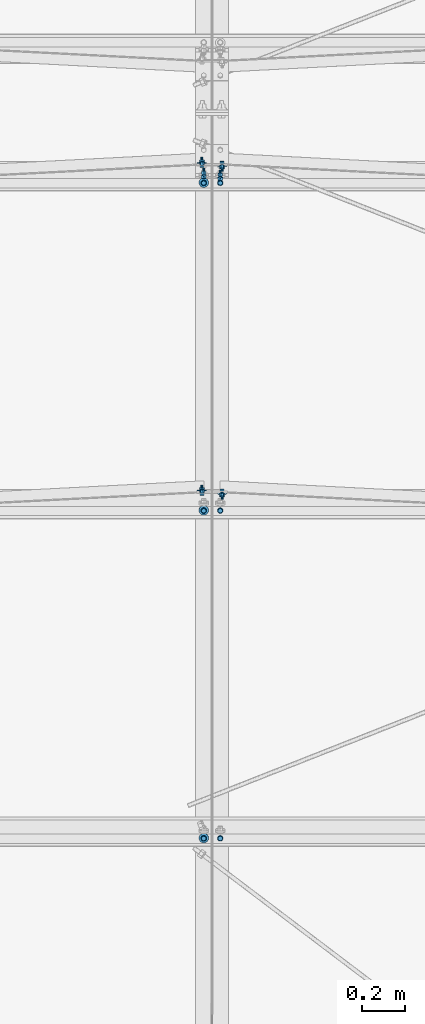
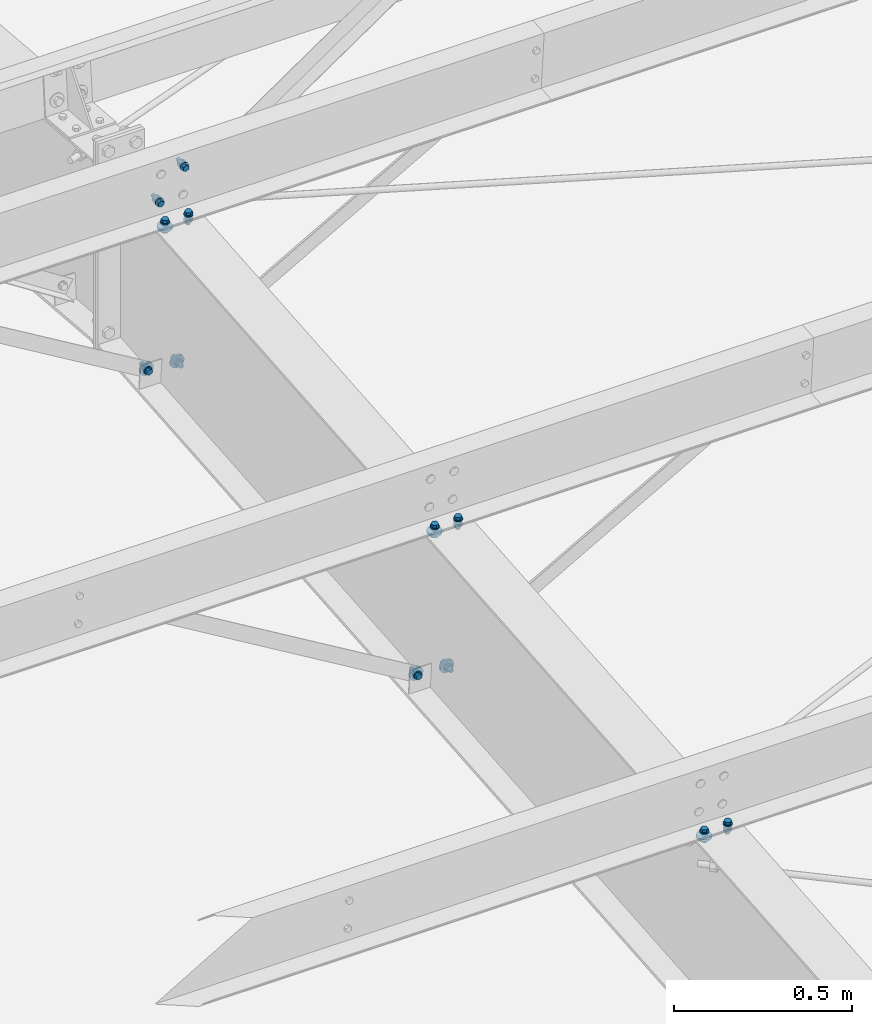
# One storey, part 131 of 185: 16 mechanical fasteners, 9 elements without a shape of their own.
"""IFC2X3 building model written with IfcOpenShell, lengths in millimetres."""

import ifcopenshell
import ifcopenshell.guid

model = None  # the IFC model being written
_history = None  # IfcOwnerHistory: only IFC2X3 demands one
_inside = {}  # id of a spatial element -> (the spatial element, [elements in it])
_under = {}  # id of a project, library or spatial element -> (it, [spatial elements below it])
_declared = {}  # id of a project -> (the project, [libraries it declares])
_typed = {}  # id of a type object -> (the type object, [elements of that type])
_made_of = {}  # id of a material, layer set ... -> (it, [elements and type objects made of it])


def new_model(schema):
    """Start an empty IFC model of exactly this schema.

    Asked for "IFC4X3", IfcOpenShell would pick the latest addendum, in which some entities
    have other attributes; the version numbers below select the first issue.
    IFC2X3 requires an IfcOwnerHistory on every rooted entity: one is made here for all.
    """
    global model, _history
    if schema == "IFC4X3":
        model = ifcopenshell.file(schema_version=(4, 3, 0, 0))
    else:
        model = ifcopenshell.file(schema=schema)
    _inside.clear()
    _under.clear()
    _declared.clear()
    _typed.clear()
    _made_of.clear()
    _history = None
    if model.schema == "IFC2X3":
        org = make("IfcOrganization", Name="unknown")
        user = make(
            "IfcPersonAndOrganization",
            ThePerson=make("IfcPerson", FamilyName="unknown"),
            TheOrganization=org,
        )
        app = make(
            "IfcApplication",
            ApplicationDeveloper=org,
            Version="unknown",
            ApplicationFullName="unknown",
            ApplicationIdentifier="unknown",
        )
        _history = make(
            "IfcOwnerHistory",
            OwningUser=user,
            OwningApplication=app,
            ChangeAction="ADDED",
            CreationDate=0,
        )
    return model


def make(cls, **values):
    """One entity of the class cls with the attributes given. An attribute that is None is left unset."""
    return model.create_entity(
        cls, **{name: value for name, value in values.items() if value is not None}
    )


def rooted(cls, **values):
    """An entity with a GlobalId (a new one), such as an element, a storey or a relation."""
    return make(cls, GlobalId=ifcopenshell.guid.new(), OwnerHistory=_history, **values)


def si_unit(unit_type, name, prefix=None):
    """IfcSIUnit, for example si_unit("LENGTHUNIT", "METRE", prefix="MILLI")."""
    return make("IfcSIUnit", UnitType=unit_type, Prefix=prefix, Name=name)


def assignment(units):
    """IfcUnitAssignment: the units of a project."""
    return None if units is None else make("IfcUnitAssignment", Units=units)


def point(xyz):
    """IfcCartesianPoint."""
    return None if xyz is None else make("IfcCartesianPoint", Coordinates=xyz)


def direction(xyz):
    """IfcDirection."""
    return None if xyz is None else make("IfcDirection", DirectionRatios=xyz)


def frame(location, z_axis=None, x_axis=None):
    """IfcAxis2Placement3D, a coordinate frame: its origin and axes. An axis left out is left unset."""
    return make(
        "IfcAxis2Placement3D",
        Location=point(location),
        Axis=direction(z_axis),
        RefDirection=direction(x_axis),
    )


def frame_2d(location, x_axis=None):
    """IfcAxis2Placement2D, a coordinate frame in the plane: its origin and x axis."""
    return make(
        "IfcAxis2Placement2D", Location=point(location), RefDirection=direction(x_axis)
    )


def origin_with_axes():
    """The frame at (0, 0, 0) with the z axis (0, 0, 1) and the x axis (1, 0, 0) written out."""
    return frame((0.0, 0.0, 0.0), z_axis=(0.0, 0.0, 1.0), x_axis=(1.0, 0.0, 0.0))


def origin_2d_with_axis():
    """The frame at (0, 0) in the plane with the x axis (1, 0) written out."""
    return frame_2d((0.0, 0.0), x_axis=(1.0, 0.0))


def place(relative_to, where):
    """IfcLocalPlacement: puts the frame where relative to a parent placement (None: the world)."""
    return make(
        "IfcLocalPlacement", PlacementRelTo=relative_to, RelativePlacement=where
    )


def context(
    kind, dimensions, precision=None, world=None, true_north=None, identifier=None
):
    """IfcGeometricRepresentationContext, for example the 3D "Model" context."""
    return make(
        "IfcGeometricRepresentationContext",
        ContextIdentifier=identifier,
        ContextType=kind,
        CoordinateSpaceDimension=dimensions,
        Precision=precision,
        WorldCoordinateSystem=world,
        TrueNorth=true_north,
    )


def subcontext(parent, identifier, kind, view, scale=None):
    """IfcGeometricRepresentationSubContext, for example "Body" below "Model"."""
    return make(
        "IfcGeometricRepresentationSubContext",
        ContextIdentifier=identifier,
        ContextType=kind,
        ParentContext=parent,
        TargetScale=scale,
        TargetView=view,
    )


def project(units=None, contexts=None):
    """IfcProject with its units and contexts."""
    return rooted(
        "IfcProject",
        Name="project",
        RepresentationContexts=contexts,
        UnitsInContext=assignment(units),
    )


def spatial(cls, under=None, at=None, **own):
    """A site, building, storey or space (cls), placed at a placement, below another one or the project."""
    s = rooted(cls, ObjectPlacement=at, **own)
    if under is not None:
        _under.setdefault(under.id(), (under, []))[1].append(s)
    return s


def polyline(points):
    """IfcPolyline through the points."""
    return make("IfcPolyline", Points=[point(p) for p in points])


def profile(cls, at=None, kind="AREA", **sizes):
    """A parametric profile (cls). Its sizes go by their IFC names, for example OverallWidth=200.0."""
    return make(cls, ProfileType=kind, Position=at, **sizes)


def circle(**sizes):
    """IfcCircleProfileDef."""
    return profile("IfcCircleProfileDef", **sizes)


def outline(outer, holes=None, kind="AREA"):
    """IfcArbitraryClosedProfileDef: a profile drawn as a closed curve; with holes, ...WithVoids."""
    if holes is None:
        return make("IfcArbitraryClosedProfileDef", ProfileType=kind, OuterCurve=outer)
    return make(
        "IfcArbitraryProfileDefWithVoids",
        ProfileType=kind,
        OuterCurve=outer,
        InnerCurves=holes,
    )


def extrude(swept, where, along, depth):
    """IfcExtrudedAreaSolid: the profile swept, set in the frame where, extruded along a direction by depth."""
    return make(
        "IfcExtrudedAreaSolid",
        SweptArea=swept,
        Position=where,
        ExtrudedDirection=direction(along),
        Depth=depth,
    )


def shape(context_of_items, identifier, shape_type, items):
    """IfcShapeRepresentation: the items that make up one representation, for example the "Body"."""
    return make(
        "IfcShapeRepresentation",
        ContextOfItems=context_of_items,
        RepresentationIdentifier=identifier,
        RepresentationType=shape_type,
        Items=items,
    )


def source(mapping_origin, context_of_items, identifier, shape_type, items):
    """IfcRepresentationMap: a shape defined once, which mapped items show again and again."""
    return make(
        "IfcRepresentationMap",
        MappingOrigin=mapping_origin,
        MappedRepresentation=shape(context_of_items, identifier, shape_type, items),
    )


def transform(
    local_origin,
    x_axis=None,
    y_axis=None,
    z_axis=None,
    scale=None,
    scale2=None,
    scale3=None,
    uniform=True,
):
    """IfcCartesianTransformationOperator3D, or its non-uniform kind. x_axis, y_axis, z_axis: its Axis1, 2, 3."""
    if uniform:
        return make(
            "IfcCartesianTransformationOperator3D",
            Axis1=direction(x_axis),
            Axis2=direction(y_axis),
            LocalOrigin=point(local_origin),
            Scale=scale,
            Axis3=direction(z_axis),
        )
    return make(
        "IfcCartesianTransformationOperator3DnonUniform",
        Axis1=direction(x_axis),
        Axis2=direction(y_axis),
        LocalOrigin=point(local_origin),
        Scale=scale,
        Axis3=direction(z_axis),
        Scale2=scale2,
        Scale3=scale3,
    )


def mapped(mapping_source, mapping_target):
    """IfcMappedItem: shows the shape of a source again, moved by a transform."""
    return make(
        "IfcMappedItem", MappingSource=mapping_source, MappingTarget=mapping_target
    )


def material(Name=None, Category=None):
    """IfcMaterial."""
    return make("IfcMaterial", Name=Name, Category=Category)


def made_of(thing, what):
    """Note that an element or type object is made of a material, layer set ...; save() writes the relation."""
    if what is not None:
        _made_of.setdefault(what.id(), (what, []))[1].append(thing)
    return thing


def type_object(cls, material=None, **own):
    """A type object (cls), such as IfcWallType, which elements share."""
    return made_of(rooted(cls, **own), material)


def element(
    cls,
    number,
    at=None,
    inside=None,
    cuts=None,
    type_object=None,
    material=None,
    context=None,
    identifier="Body",
    shape_type=None,
    held_by="IfcProductDefinitionShape",
    body=None,
    shapes=None,
    **own,
):
    """One element of the class cls, such as IfcWall. Its Tag is "e" and its number.

    at: its placement. inside: the storey or other place that contains it. cuts: it is an
    opening in that element (IfcRelVoidsElement). A single representation is given by context,
    identifier, shape_type and body (its items); several are given by shapes. held_by: the class
    of the entity that holds the representations. save() writes the other relations.
    """
    e = rooted(cls, Tag="e%d" % number, ObjectPlacement=at, **own)
    if body is not None:
        shapes = [shape(context, identifier, shape_type, body)]
    if shapes is not None:
        e.Representation = make(held_by, Representations=shapes)
    if inside is not None:
        _inside.setdefault(inside.id(), (inside, []))[1].append(e)
    if cuts is not None:
        rooted(
            "IfcRelVoidsElement", RelatingBuildingElement=cuts, RelatedOpeningElement=e
        )
    if type_object is not None:
        _typed.setdefault(type_object.id(), (type_object, []))[1].append(e)
    return made_of(e, material)


def aggregate(whole, parts):
    """IfcRelAggregates: a whole, such as a stair, and the parts it consists of."""
    return rooted("IfcRelAggregates", RelatingObject=whole, RelatedObjects=parts)


def save(model, path):
    """Write the relations noted so far, then the file.

    IfcRelAggregates (storeys below a building ...), IfcRelContainedInSpatialStructure (elements
    in a storey), IfcRelDefinesByType, IfcRelAssociatesMaterial and IfcRelDeclares: one each for
    every whole, place, type object, material and project.
    """
    for whole, parts in _under.values():
        aggregate(whole, parts)
    for where, things in _inside.values():
        rooted(
            "IfcRelContainedInSpatialStructure",
            RelatedElements=things,
            RelatingStructure=where,
        )
    for kind, things in _typed.values():
        rooted("IfcRelDefinesByType", RelatedObjects=things, RelatingType=kind)
    for what, things in _made_of.values():
        rooted("IfcRelAssociatesMaterial", RelatedObjects=things, RelatingMaterial=what)
    for by, libraries in _declared.values():
        rooted("IfcRelDeclares", RelatingContext=by, RelatedDefinitions=libraries)
    model.write(path)


model = new_model("IFC2X3")

# Units and contexts
model_context = context("Model", 3, precision=1e-05, world=origin_with_axes())
body_context = subcontext(model_context, "Body", "Model", "MODEL_VIEW")
ifc_project = project(units=[si_unit("LENGTHUNIT", "METRE", prefix="MILLI"), si_unit("AREAUNIT", "SQUARE_METRE"), si_unit("VOLUMEUNIT", "CUBIC_METRE"), si_unit("MASSUNIT", "GRAM", prefix="KILO"), si_unit("TIMEUNIT", "SECOND"), si_unit("PLANEANGLEUNIT", "RADIAN"), si_unit("SOLIDANGLEUNIT", "STERADIAN"), si_unit("THERMODYNAMICTEMPERATUREUNIT", "DEGREE_CELSIUS"), si_unit("LUMINOUSINTENSITYUNIT", "LUMEN")], contexts=[model_context])

# Site, building, storey
site_placement = place(None, origin_with_axes())
site = spatial("IfcSite", under=ifc_project, at=site_placement, Name="Undefined", CompositionType="ELEMENT")
building_placement = place(site_placement, origin_with_axes())
building = spatial("IfcBuilding", under=site, at=building_placement, Name="Undefined", CompositionType="ELEMENT")
storey_placement = place(building_placement, origin_with_axes())
storey = spatial("IfcBuildingStorey", under=building, at=storey_placement, Name="Undefined", CompositionType="ELEMENT", Elevation=0.0)

# Assembly, mechanical fastener
assembly_1_placement = place(storey_placement, origin_with_axes())
assembly_1 = element("IfcElementAssembly", 1, at=assembly_1_placement, inside=storey, Name="Steel Assembly", AssemblyPlace="NOTDEFINED", PredefinedType="RIGID_FRAME")
ifc_material_1 = material(Name="Undefined")
discrete_accessory_type = type_object("IfcDiscreteAccessoryType", Name="Bolt assembly")
shared_shape_1 = source(origin_with_axes(), body_context, "Body", "SweptSolid", [
    extrude(circle(Radius=7.14374971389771, at=origin_2d_with_axis()), frame((0.0, -1.59000001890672, 0.0), z_axis=(0.0, 1.0, 0.0), x_axis=(1.0, 0.0, 0.0)), (0.0, 0.0, 1.0), 1.7),
    extrude(outline(polyline([(10.9985221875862, 0.0), (5.4992610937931, 9.52499961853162), (-5.4992610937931, 9.52499961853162), (-10.9985221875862, 0.0), (-5.4992610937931, -9.52499961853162), (5.4992610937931, -9.52499961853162), (10.9985221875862, 0.0)])), frame((0.0, -15.0837496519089, 0.0), z_axis=(0.0, 1.0, 0.0), x_axis=(1.0, 0.0, 0.0)), (0.0, 0.0, 1.0), 9.5),
    extrude(circle(Radius=6.34999990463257, at=origin_2d_with_axis()), frame((0.0, -5.5587500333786, 0.0), z_axis=(0.0, 1.0, 0.0), x_axis=(1.0, 0.0, 0.0)), (0.0, 0.0, 1.0), 38.1),
    extrude(circle(Radius=13.4937496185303, at=origin_2d_with_axis()), frame((0.0, -5.5587500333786, 0.0), z_axis=(0.0, 1.0, 0.0), x_axis=(1.0, 0.0, 0.0)), (0.0, 0.0, 1.0), 4.0),
    extrude(circle(Radius=22.2250003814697, at=origin_2d_with_axis()), frame((0.0, 0.0, 0.0), z_axis=(0.0, 1.0, 0.0), x_axis=(1.0, 0.0, 0.0)), (0.0, 0.0, 1.0), 7.9),
    extrude(outline(polyline([(12.8316099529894, 0.0), (6.4158049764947, 11.1125001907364), (-6.4158049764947, 11.1125001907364), (-12.8316099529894, 0.0), (-6.4158049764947, -11.1125001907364), (6.4158049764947, -11.1125001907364), (12.8316099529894, 0.0)])), frame((0.0, 7.93750000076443, 0.0), z_axis=(0.0, 1.0, 0.0), x_axis=(1.0, 0.0, 0.0)), (0.0, 0.0, 1.0), 12.3),
])
mechanical_fastener_1_placement = place(assembly_1_placement, frame((7286.0060520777, 15761.3591259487, 6646.91759132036), z_axis=(0.530152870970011, 0.0704144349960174, -0.844973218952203), x_axis=(0.847902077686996, -0.044026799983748, 0.528321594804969)))
mechanical_fastener_1 = element("IfcMechanicalFastener", 2, at=mechanical_fastener_1_placement, type_object=discrete_accessory_type, material=ifc_material_1, Name="Bolt assembly", NominalDiameter=12.6999998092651, NominalLength=38.0999984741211, context=body_context, shape_type="MappedRepresentation", body=[
    mapped(shared_shape_1, transform((0.0, 0.0, 0.0))),
])
aggregate(assembly_1, [mechanical_fastener_1])

assembly_2_placement = place(storey_placement, origin_with_axes())
assembly_2 = element("IfcElementAssembly", 3, at=assembly_2_placement, inside=storey, Name="Steel Assembly", AssemblyPlace="NOTDEFINED", PredefinedType="RIGID_FRAME")
mechanical_fastener_2_placement = place(assembly_2_placement, frame((7286.00605207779, 14242.6233903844, 6520.35628002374), z_axis=(0.530152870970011, 0.0704144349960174, -0.844973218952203), x_axis=(0.847902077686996, -0.044026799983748, 0.528321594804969)))
mechanical_fastener_2 = element("IfcMechanicalFastener", 4, at=mechanical_fastener_2_placement, type_object=discrete_accessory_type, material=ifc_material_1, Name="Bolt assembly", NominalDiameter=12.6999998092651, NominalLength=38.0999984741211, context=body_context, shape_type="MappedRepresentation", body=[
    mapped(shared_shape_1, transform((0.0, 0.0, 0.0))),
])
aggregate(assembly_2, [mechanical_fastener_2])

assembly_3_placement = place(storey_placement, origin_with_axes())
assembly_3 = element("IfcElementAssembly", 5, at=assembly_3_placement, inside=storey, Name="Steel Assembly", AssemblyPlace="NOTDEFINED", PredefinedType="RIGID_FRAME")
shared_shape_2 = source(origin_with_axes(), body_context, "Body", "SweptSolid", [
    extrude(circle(Radius=7.14374971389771, at=origin_2d_with_axis()), frame((0.0, 0.0, 0.0), z_axis=(0.0, 1.0, 0.0), x_axis=(1.0, 0.0, 0.0)), (0.0, 0.0, 1.0), 1.7),
    extrude(outline(polyline([(10.9985221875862, 0.0), (5.4992610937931, 9.52499961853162), (-5.4992610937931, 9.52499961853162), (-10.9985221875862, 0.0), (-5.4992610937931, -9.52499961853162), (5.4992610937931, -9.52499961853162), (10.9985221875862, 0.0)])), frame((0.0, -13.4937496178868, 0.0), z_axis=(0.0, 1.0, 0.0), x_axis=(1.0, 0.0, 0.0)), (0.0, 0.0, 1.0), 9.5),
    extrude(circle(Radius=6.34999990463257, at=origin_2d_with_axis()), frame((0.0, -3.96874999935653, 0.0), z_axis=(0.0, 1.0, 0.0), x_axis=(1.0, 0.0, 0.0)), (0.0, 0.0, 1.0), 38.1),
    extrude(circle(Radius=13.4937496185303, at=origin_2d_with_axis()), frame((0.0, -3.96874999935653, 0.0), z_axis=(0.0, 1.0, 0.0), x_axis=(1.0, 0.0, 0.0)), (0.0, 0.0, 1.0), 4.0),
    extrude(circle(Radius=22.2250003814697, at=origin_2d_with_axis()), frame((0.0, 1.5900000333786, 0.0), z_axis=(0.0, 1.0, 0.0), x_axis=(1.0, 0.0, 0.0)), (0.0, 0.0, 1.0), 7.9),
    extrude(outline(polyline([(12.8316099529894, 0.0), (6.4158049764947, 11.1125001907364), (-6.4158049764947, 11.1125001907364), (-12.8316099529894, 0.0), (-6.4158049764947, -11.1125001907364), (6.4158049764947, -11.1125001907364), (12.8316099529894, 0.0)])), frame((0.0, 9.5275000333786, 0.0), z_axis=(0.0, 1.0, 0.0), x_axis=(1.0, 0.0, 0.0)), (0.0, 0.0, 1.0), 12.3),
])
mechanical_fastener_3_placement = place(assembly_3_placement, frame((7191.9939479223, 15761.3591259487, 6646.91759132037), z_axis=(-0.530152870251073, 0.070414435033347, -0.844973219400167), x_axis=(-0.847902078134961, -0.0440268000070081, 0.528321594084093)))
mechanical_fastener_3 = element("IfcMechanicalFastener", 6, at=mechanical_fastener_3_placement, type_object=discrete_accessory_type, material=ifc_material_1, Name="Bolt assembly", NominalDiameter=12.6999998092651, NominalLength=38.0999984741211, context=body_context, shape_type="MappedRepresentation", body=[
    mapped(shared_shape_2, transform((0.0, 0.0, 0.0))),
])
aggregate(assembly_3, [mechanical_fastener_3])

assembly_4_placement = place(storey_placement, origin_with_axes())
assembly_4 = element("IfcElementAssembly", 7, at=assembly_4_placement, inside=storey, Name="Steel Assembly", AssemblyPlace="NOTDEFINED", PredefinedType="RIGID_FRAME")
mechanical_fastener_4_placement = place(assembly_4_placement, frame((7191.99394792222, 14242.6233903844, 6520.35628002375), z_axis=(-0.530152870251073, 0.070414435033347, -0.844973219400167), x_axis=(-0.847902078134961, -0.0440268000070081, 0.528321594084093)))
mechanical_fastener_4 = element("IfcMechanicalFastener", 8, at=mechanical_fastener_4_placement, type_object=discrete_accessory_type, material=ifc_material_1, Name="Bolt assembly", NominalDiameter=12.6999998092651, NominalLength=38.0999984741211, context=body_context, shape_type="MappedRepresentation", body=[
    mapped(shared_shape_2, transform((0.0, 0.0, 0.0))),
])
aggregate(assembly_4, [mechanical_fastener_4])

# Assembly, mechanical fasteners
assembly_5_placement = place(storey_placement, origin_with_axes())
assembly_5 = element("IfcElementAssembly", 9, at=assembly_5_placement, inside=storey, Name="Steel Assembly", AssemblyPlace="NOTDEFINED", PredefinedType="RIGID_FRAME")
ifc_material_2 = material(Name="7990")
shared_shape_3 = source(origin_with_axes(), body_context, "Body", "SweptSolid", [
    extrude(circle(Radius=7.14374971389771, at=origin_2d_with_axis()), frame((0.0, -3.41600000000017, 0.0), z_axis=(0.0, 1.0, 0.0), x_axis=(1.0, 0.0, 0.0)), (0.0, 0.0, 1.0), 3.5),
    extrude(circle(Radius=11.4299998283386, at=origin_2d_with_axis()), frame((0.0, 0.0, 0.0), z_axis=(0.0, 1.0, 0.0), x_axis=(1.0, 0.0, 0.0)), (0.0, 0.0, 1.0), 4.2),
    extrude(outline(polyline([(12.171698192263, 0.0), (6.08584909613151, 10.5409998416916), (-6.08584909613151, 10.5409998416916), (-12.171698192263, 0.0), (-6.08584909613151, -10.5409998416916), (6.08584909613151, -10.5409998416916), (12.171698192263, 0.0)])), frame((0.0, 4.1909999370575, 0.0), z_axis=(0.0, 1.0, 0.0), x_axis=(1.0, 0.0, 0.0)), (0.0, 0.0, 1.0), 8.4),
])
mechanical_fastener_5_placement = place(assembly_5_placement, frame((7192.84185, 15761.4031527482, 6646.38926972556), z_axis=(0.921635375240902, 0.0322263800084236, -0.386716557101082), x_axis=(-0.388056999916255, 0.0765376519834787, -0.9184518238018)))
mechanical_fastener_5 = element("IfcMechanicalFastener", 10, at=mechanical_fastener_5_placement, type_object=discrete_accessory_type, material=ifc_material_2, Name="Bolt assembly", NominalDiameter=12.6999998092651, NominalLength=38.0999984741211, context=body_context, shape_type="MappedRepresentation", body=[
    mapped(shared_shape_3, transform((0.0, 0.0, 0.0))),
])
mechanical_fastener_6_placement = place(assembly_5_placement, frame((7192.84185, 14242.6674171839, 6519.82795842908), z_axis=(0.921635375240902, 0.0322263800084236, -0.386716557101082), x_axis=(-0.388056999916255, 0.0765376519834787, -0.9184518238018)))
mechanical_fastener_6 = element("IfcMechanicalFastener", 11, at=mechanical_fastener_6_placement, type_object=discrete_accessory_type, material=ifc_material_2, Name="Bolt assembly", NominalDiameter=12.6999998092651, NominalLength=38.0999984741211, context=body_context, shape_type="MappedRepresentation", body=[
    mapped(shared_shape_3, transform((0.0, 0.0, 0.0))),
])
shared_shape_4 = source(origin_with_axes(), body_context, "Body", "SweptSolid", [
    extrude(circle(Radius=7.14374971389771, at=origin_2d_with_axis()), frame((0.0, 0.0, 0.0), z_axis=(0.0, 1.0, 0.0), x_axis=(1.0, 0.0, 0.0)), (0.0, 0.0, 1.0), 3.5),
    extrude(circle(Radius=11.4299998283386, at=origin_2d_with_axis()), frame((0.0, 3.41600000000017, 0.0), z_axis=(0.0, 1.0, 0.0), x_axis=(1.0, 0.0, 0.0)), (0.0, 0.0, 1.0), 4.2),
    extrude(outline(polyline([(12.171698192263, 0.0), (6.08584909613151, 10.5409998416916), (-6.08584909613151, 10.5409998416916), (-12.171698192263, 0.0), (-6.08584909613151, -10.5409998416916), (6.08584909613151, -10.5409998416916), (12.171698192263, 0.0)])), frame((0.0, 7.60699993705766, 0.0), z_axis=(0.0, 1.0, 0.0), x_axis=(1.0, 0.0, 0.0)), (0.0, 0.0, 1.0), 8.4),
])
mechanical_fastener_7_placement = place(assembly_5_placement, frame((7285.15815, 15761.4031527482, 6646.38926972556), z_axis=(-0.921635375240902, 0.0322263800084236, -0.386716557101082), x_axis=(0.388056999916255, 0.0765376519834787, -0.9184518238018)))
mechanical_fastener_7 = element("IfcMechanicalFastener", 12, at=mechanical_fastener_7_placement, type_object=discrete_accessory_type, material=ifc_material_2, Name="Bolt assembly", NominalDiameter=12.6999998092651, NominalLength=38.0999984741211, context=body_context, shape_type="MappedRepresentation", body=[
    mapped(shared_shape_4, transform((0.0, 0.0, 0.0))),
])
mechanical_fastener_8_placement = place(assembly_5_placement, frame((7285.15815, 14242.6674171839, 6519.82795842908), z_axis=(-0.921635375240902, 0.0322263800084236, -0.386716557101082), x_axis=(0.388056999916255, 0.0765376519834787, -0.9184518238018)))
mechanical_fastener_8 = element("IfcMechanicalFastener", 13, at=mechanical_fastener_8_placement, type_object=discrete_accessory_type, material=ifc_material_2, Name="Bolt assembly", NominalDiameter=12.6999998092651, NominalLength=38.0999984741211, context=body_context, shape_type="MappedRepresentation", body=[
    mapped(shared_shape_4, transform((0.0, 0.0, 0.0))),
])
aggregate(assembly_5, [mechanical_fastener_7, mechanical_fastener_5, mechanical_fastener_8, mechanical_fastener_6])

# Assembly, mechanical fastener
assembly_6_placement = place(storey_placement, origin_with_axes())
assembly_6 = element("IfcElementAssembly", 14, at=assembly_6_placement, inside=storey, Name="Steel Assembly", AssemblyPlace="NOTDEFINED", PredefinedType="RIGID_FRAME")
shared_shape_5 = source(origin_with_axes(), body_context, "Body", "SweptSolid", [
    extrude(circle(Radius=7.14374971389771, at=origin_2d_with_axis()), frame((0.0, -0.0238014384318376, 0.0), z_axis=(0.0, 1.0, 0.0), x_axis=(1.0, 0.0, 0.0)), (0.0, 0.0, 1.0), 8.0),
    extrude(circle(Radius=7.14374971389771, at=origin_2d_with_axis()), frame((0.0, -3.18000030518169, 0.0), z_axis=(0.0, 1.0, 0.0), x_axis=(1.0, 0.0, 0.0)), (0.0, 0.0, 1.0), 3.2),
    extrude(circle(Radius=7.14374971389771, at=origin_2d_with_axis()), frame((0.0, -3.08000006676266, 0.0), z_axis=(0.0, 1.0, 0.0), x_axis=(1.0, 0.0, 0.0)), (0.0, 0.0, 1.0), 3.2),
    extrude(outline(polyline([(10.9985221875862, 0.0), (5.4992610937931, 9.52499961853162), (-5.4992610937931, 9.52499961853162), (-10.9985221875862, 0.0), (-5.4992610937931, -9.52499961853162), (5.4992610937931, -9.52499961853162), (10.9985221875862, 0.0)])), frame((0.0, -16.6737496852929, 0.0), z_axis=(0.0, 1.0, 0.0), x_axis=(1.0, 0.0, 0.0)), (0.0, 0.0, 1.0), 9.5),
    extrude(circle(Radius=6.34999990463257, at=origin_2d_with_axis()), frame((0.0, -7.14875006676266, 0.0), z_axis=(0.0, 1.0, 0.0), x_axis=(1.0, 0.0, 0.0)), (0.0, 0.0, 1.0), 38.1),
    extrude(circle(Radius=13.4937496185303, at=origin_2d_with_axis()), frame((0.0, -7.14875006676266, 0.0), z_axis=(0.0, 1.0, 0.0), x_axis=(1.0, 0.0, 0.0)), (0.0, 0.0, 1.0), 4.0),
    extrude(circle(Radius=22.2250003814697, at=origin_2d_with_axis()), frame((0.0, 7.95019856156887, 0.0), z_axis=(0.0, 1.0, 0.0), x_axis=(1.0, 0.0, 0.0)), (0.0, 0.0, 1.0), 7.9),
    extrude(outline(polyline([(12.8316099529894, 0.0), (6.4158049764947, 11.1125001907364), (-6.4158049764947, 11.1125001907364), (-12.8316099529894, 0.0), (-6.4158049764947, -11.1125001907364), (6.4158049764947, -11.1125001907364), (12.8316099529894, 0.0)])), frame((0.0, 15.8876985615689, 0.0), z_axis=(0.0, 1.0, 0.0), x_axis=(1.0, 0.0, 0.0)), (0.0, 0.0, 1.0), 12.3),
])
mechanical_fastener_9_placement = place(assembly_6_placement, frame((7200.9, 15677.1597253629, 7198.52564490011), z_axis=(1.0, 0.0, 0.0), x_axis=(0.0, -0.996545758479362, -0.0830454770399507)))
mechanical_fastener_9 = element("IfcMechanicalFastener", 15, at=mechanical_fastener_9_placement, type_object=discrete_accessory_type, material=ifc_material_1, Name="Bolt assembly", NominalDiameter=12.6999998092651, NominalLength=38.0999984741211, context=body_context, shape_type="MappedRepresentation", body=[
    mapped(shared_shape_5, transform((0.0, 0.0, 0.0))),
])

assembly_7_placement = place(storey_placement, origin_with_axes())
assembly_7 = element("IfcElementAssembly", 16, at=assembly_7_placement, inside=storey, Name="Steel Assembly", AssemblyPlace="NOTDEFINED", PredefinedType="RIGID_FRAME")
mechanical_fastener_10_placement = place(assembly_7_placement, frame((7200.9, 12639.6882542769, 6945.40302179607), z_axis=(1.0, 0.0, 0.0), x_axis=(0.0, -0.996545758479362, -0.0830454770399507)))
mechanical_fastener_10 = element("IfcMechanicalFastener", 17, at=mechanical_fastener_10_placement, type_object=discrete_accessory_type, material=ifc_material_1, Name="Bolt assembly", NominalDiameter=12.6999998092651, NominalLength=38.0999984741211, context=body_context, shape_type="MappedRepresentation", body=[
    mapped(shared_shape_5, transform((0.0, 0.0, 0.0))),
])

assembly_8_placement = place(storey_placement, origin_with_axes())
assembly_8 = element("IfcElementAssembly", 18, at=assembly_8_placement, inside=storey, Name="Steel Assembly", AssemblyPlace="NOTDEFINED", PredefinedType="RIGID_FRAME")
mechanical_fastener_11_placement = place(assembly_8_placement, frame((7200.9, 14158.4239898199, 7071.96433334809), z_axis=(1.0, 0.0, 0.0), x_axis=(0.0, -0.996545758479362, -0.0830454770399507)))
mechanical_fastener_11 = element("IfcMechanicalFastener", 19, at=mechanical_fastener_11_placement, type_object=discrete_accessory_type, material=ifc_material_1, Name="Bolt assembly", NominalDiameter=12.6999998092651, NominalLength=38.0999984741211, context=body_context, shape_type="MappedRepresentation", body=[
    mapped(shared_shape_5, transform((0.0, 0.0, 0.0))),
])

# Mechanical fastener
shared_shape_6 = source(origin_with_axes(), body_context, "Body", "SweptSolid", [
    extrude(circle(Radius=7.14374971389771, at=origin_2d_with_axis()), frame((0.0, -0.0238014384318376, 0.0), z_axis=(0.0, 1.0, 0.0), x_axis=(1.0, 0.0, 0.0)), (0.0, 0.0, 1.0), 8.0),
    extrude(circle(Radius=7.14374971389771, at=origin_2d_with_axis()), frame((0.0, -3.18000030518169, 0.0), z_axis=(0.0, 1.0, 0.0), x_axis=(1.0, 0.0, 0.0)), (0.0, 0.0, 1.0), 3.2),
    extrude(circle(Radius=7.14374971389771, at=origin_2d_with_axis()), frame((0.0, -3.08000006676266, 0.0), z_axis=(0.0, 1.0, 0.0), x_axis=(1.0, 0.0, 0.0)), (0.0, 0.0, 1.0), 3.2),
    extrude(outline(polyline([(10.9985221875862, 0.0), (5.4992610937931, 9.52499961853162), (-5.4992610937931, 9.52499961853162), (-10.9985221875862, 0.0), (-5.4992610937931, -9.52499961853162), (5.4992610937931, -9.52499961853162), (10.9985221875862, 0.0)])), frame((0.0, -16.6737496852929, 0.0), z_axis=(0.0, 1.0, 0.0), x_axis=(1.0, 0.0, 0.0)), (0.0, 0.0, 1.0), 9.5),
    extrude(circle(Radius=6.34999990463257, at=origin_2d_with_axis()), frame((0.0, -7.14875006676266, 0.0), z_axis=(0.0, 1.0, 0.0), x_axis=(1.0, 0.0, 0.0)), (0.0, 0.0, 1.0), 38.1),
    extrude(circle(Radius=13.4937496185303, at=origin_2d_with_axis()), frame((0.0, -7.14875006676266, 0.0), z_axis=(0.0, 1.0, 0.0), x_axis=(1.0, 0.0, 0.0)), (0.0, 0.0, 1.0), 4.0),
    extrude(outline(polyline([(12.8316099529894, 0.0), (6.4158049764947, 11.1125001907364), (-6.4158049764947, 11.1125001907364), (-12.8316099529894, 0.0), (-6.4158049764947, -11.1125001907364), (6.4158049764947, -11.1125001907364), (12.8316099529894, 0.0)])), frame((0.0, 7.95019856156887, 0.0), z_axis=(0.0, 1.0, 0.0), x_axis=(1.0, 0.0, 0.0)), (0.0, 0.0, 1.0), 12.3),
])
mechanical_fastener_12_placement = place(assembly_6_placement, frame((7277.1, 15677.1597253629, 7198.52564490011), z_axis=(1.0, 0.0, 0.0), x_axis=(0.0, -0.996545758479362, -0.0830454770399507)))
mechanical_fastener_12 = element("IfcMechanicalFastener", 20, at=mechanical_fastener_12_placement, type_object=discrete_accessory_type, material=ifc_material_1, Name="Bolt assembly", NominalDiameter=12.6999998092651, NominalLength=38.0999984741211, context=body_context, shape_type="MappedRepresentation", body=[
    mapped(shared_shape_6, transform((0.0, 0.0, 0.0))),
])

aggregate(assembly_6, [mechanical_fastener_9, mechanical_fastener_12])

mechanical_fastener_13_placement = place(assembly_7_placement, frame((7277.1, 12639.6882542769, 6945.40302179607), z_axis=(1.0, 0.0, 0.0), x_axis=(0.0, -0.996545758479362, -0.0830454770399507)))
mechanical_fastener_13 = element("IfcMechanicalFastener", 21, at=mechanical_fastener_13_placement, type_object=discrete_accessory_type, material=ifc_material_1, Name="Bolt assembly", NominalDiameter=12.6999998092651, NominalLength=38.0999984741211, context=body_context, shape_type="MappedRepresentation", body=[
    mapped(shared_shape_6, transform((0.0, 0.0, 0.0))),
])

aggregate(assembly_7, [mechanical_fastener_10, mechanical_fastener_13])

mechanical_fastener_14_placement = place(assembly_8_placement, frame((7277.1, 14158.4239898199, 7071.96433334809), z_axis=(1.0, 0.0, 0.0), x_axis=(0.0, -0.996545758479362, -0.0830454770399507)))
mechanical_fastener_14 = element("IfcMechanicalFastener", 22, at=mechanical_fastener_14_placement, type_object=discrete_accessory_type, material=ifc_material_1, Name="Bolt assembly", NominalDiameter=12.6999998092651, NominalLength=38.0999984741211, context=body_context, shape_type="MappedRepresentation", body=[
    mapped(shared_shape_6, transform((0.0, 0.0, 0.0))),
])

aggregate(assembly_8, [mechanical_fastener_11, mechanical_fastener_14])

# Assembly, mechanical fasteners
assembly_9_placement = place(storey_placement, origin_with_axes())
assembly_9 = element("IfcElementAssembly", 23, at=assembly_9_placement, inside=storey, Name="Steel Assembly", AssemblyPlace="NOTDEFINED", PredefinedType="RIGID_FRAME")
shared_shape_7 = source(origin_with_axes(), body_context, "Body", "SweptSolid", [
    extrude(circle(Radius=7.14374971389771, at=origin_2d_with_axis()), frame((0.0, 0.0, 0.0), z_axis=(0.0, 1.0, 0.0), x_axis=(1.0, 0.0, 0.0)), (0.0, 0.0, 1.0), 6.5),
    extrude(outline(polyline([(10.9985221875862, 0.0), (5.4992610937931, 9.52499961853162), (-5.4992610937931, 9.52499961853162), (-10.9985221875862, 0.0), (-5.4992610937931, -9.52499961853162), (5.4992610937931, -9.52499961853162), (10.9985221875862, 0.0)])), frame((0.0, -13.4937496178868, 0.0), z_axis=(0.0, 1.0, 0.0), x_axis=(1.0, 0.0, 0.0)), (0.0, 0.0, 1.0), 9.5),
    extrude(circle(Radius=6.34999990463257, at=origin_2d_with_axis()), frame((0.0, -3.96874999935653, 0.0), z_axis=(0.0, 1.0, 0.0), x_axis=(1.0, 0.0, 0.0)), (0.0, 0.0, 1.0), 38.1),
    extrude(circle(Radius=13.4937496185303, at=origin_2d_with_axis()), frame((0.0, -3.96874999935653, 0.0), z_axis=(0.0, 1.0, 0.0), x_axis=(1.0, 0.0, 0.0)), (0.0, 0.0, 1.0), 4.0),
    extrude(outline(polyline([(12.8316099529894, 0.0), (6.4158049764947, 11.1125001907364), (-6.4158049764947, 11.1125001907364), (-12.8316099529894, 0.0), (-6.4158049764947, -11.1125001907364), (6.4158049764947, -11.1125001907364), (12.8316099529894, 0.0)])), frame((0.0, 6.35000000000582, 0.0), z_axis=(0.0, 1.0, 0.0), x_axis=(1.0, 0.0, 0.0)), (0.0, 0.0, 1.0), 12.3),
])
mechanical_fastener_15_placement = place(assembly_9_placement, frame((7200.9, 15710.9094083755, 7252.31420220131), z_axis=(1.0, 0.0, 0.0), x_axis=(0.0, 0.0830454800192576, -0.996545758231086)))
mechanical_fastener_15 = element("IfcMechanicalFastener", 24, at=mechanical_fastener_15_placement, type_object=discrete_accessory_type, material=ifc_material_1, Name="Bolt assembly", NominalDiameter=12.6999998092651, NominalLength=38.0999984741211, context=body_context, shape_type="MappedRepresentation", body=[
    mapped(shared_shape_7, transform((0.0, 0.0, 0.0))),
])
shared_shape_8 = source(origin_with_axes(), body_context, "Body", "SweptSolid", [
    extrude(circle(Radius=7.14374971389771, at=origin_2d_with_axis()), frame((0.0, 0.0, 0.0), z_axis=(0.0, 1.0, 0.0), x_axis=(1.0, 0.0, 0.0)), (0.0, 0.0, 1.0), 6.4),
    extrude(outline(polyline([(10.9985221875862, 0.0), (5.4992610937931, 9.52499961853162), (-5.4992610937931, 9.52499961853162), (-10.9985221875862, 0.0), (-5.4992610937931, -9.52499961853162), (5.4992610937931, -9.52499961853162), (10.9985221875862, 0.0)])), frame((0.0, -13.4937496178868, 0.0), z_axis=(0.0, 1.0, 0.0), x_axis=(1.0, 0.0, 0.0)), (0.0, 0.0, 1.0), 9.5),
    extrude(circle(Radius=6.34999990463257, at=origin_2d_with_axis()), frame((0.0, -3.96874999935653, 0.0), z_axis=(0.0, 1.0, 0.0), x_axis=(1.0, 0.0, 0.0)), (0.0, 0.0, 1.0), 38.1),
    extrude(circle(Radius=13.4937496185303, at=origin_2d_with_axis()), frame((0.0, -3.96874999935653, 0.0), z_axis=(0.0, 1.0, 0.0), x_axis=(1.0, 0.0, 0.0)), (0.0, 0.0, 1.0), 4.0),
    extrude(outline(polyline([(12.8316099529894, 0.0), (6.4158049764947, 11.1125001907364), (-6.4158049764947, 11.1125001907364), (-12.8316099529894, 0.0), (-6.4158049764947, -11.1125001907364), (6.4158049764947, -11.1125001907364), (12.8316099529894, 0.0)])), frame((0.0, 6.35000000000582, 0.0), z_axis=(0.0, 1.0, 0.0), x_axis=(1.0, 0.0, 0.0)), (0.0, 0.0, 1.0), 12.3),
])
mechanical_fastener_16_placement = place(assembly_9_placement, frame((7277.1, 15702.4719876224, 7353.56325123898), z_axis=(1.0, 0.0, 0.0), x_axis=(0.0, 0.0830454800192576, -0.996545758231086)))
mechanical_fastener_16 = element("IfcMechanicalFastener", 25, at=mechanical_fastener_16_placement, type_object=discrete_accessory_type, material=ifc_material_1, Name="Bolt assembly", NominalDiameter=12.6999998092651, NominalLength=38.0999984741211, context=body_context, shape_type="MappedRepresentation", body=[
    mapped(shared_shape_8, transform((0.0, 0.0, 0.0))),
])
aggregate(assembly_9, [mechanical_fastener_15, mechanical_fastener_16])

save(model, "model.ifc")
